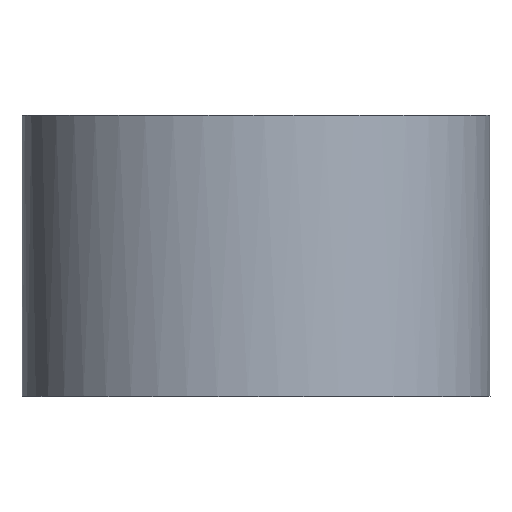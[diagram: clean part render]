
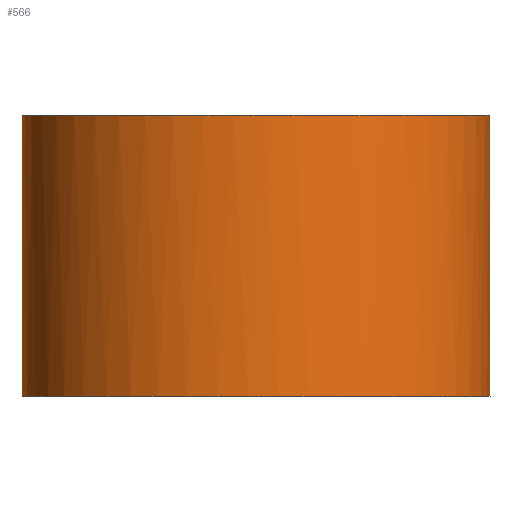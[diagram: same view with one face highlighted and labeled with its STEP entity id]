
A CAD part, top view. The second image highlights one B-rep face of the part: STEP entity #566.
In plain terms, the highlighted free-form (B-spline) face has degree [1, 2] with [2, 7] control points.
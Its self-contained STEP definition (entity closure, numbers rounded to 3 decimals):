
#15=(
BOUNDED_SURFACE()
B_SPLINE_SURFACE(1,2,((#918,#919,#920,#921,#922,#923,#924),(#925,#926,#927,
#928,#929,#930,#931)),.UNSPECIFIED.,.F.,.F.,.F.)
B_SPLINE_SURFACE_WITH_KNOTS((2,2),(3,2,2,3),(-0.6,0.6),(-3.914,
-2.352,-0.79,0.772),.UNSPECIFIED.)
GEOMETRIC_REPRESENTATION_ITEM()
RATIONAL_B_SPLINE_SURFACE(((1.,0.71,1.,0.71,1.,
0.71,1.),(1.,0.71,1.,0.71,1.,0.71,
1.)))
REPRESENTATION_ITEM('')
SURFACE()
);
#36=ELLIPSE('',#581,17.5,15.1);
#37=ELLIPSE('',#585,17.5,15.1);
#65=FACE_OUTER_BOUND('',#105,.T.);
#105=EDGE_LOOP('',(#476,#477,#478,#479));
#170=LINE('',#932,#234);
#171=LINE('',#933,#235);
#234=VECTOR('',#756,10.);
#235=VECTOR('',#757,10.);
#243=VERTEX_POINT('',#781);
#244=VERTEX_POINT('',#783);
#258=VERTEX_POINT('',#816);
#259=VERTEX_POINT('',#818);
#296=EDGE_CURVE('',#243,#244,#36,.T.);
#313=EDGE_CURVE('',#258,#259,#37,.T.);
#360=EDGE_CURVE('',#259,#243,#170,.T.);
#361=EDGE_CURVE('',#244,#258,#171,.T.);
#476=ORIENTED_EDGE('',*,*,#360,.F.);
#477=ORIENTED_EDGE('',*,*,#313,.F.);
#478=ORIENTED_EDGE('',*,*,#361,.F.);
#479=ORIENTED_EDGE('',*,*,#296,.F.);
#566=ADVANCED_FACE('',(#65),#15,.F.);
#581=AXIS2_PLACEMENT_3D('',#784,#632,#633);
#585=AXIS2_PLACEMENT_3D('',#819,#656,#657);
#632=DIRECTION('center_axis',(0.,-1.,0.));
#633=DIRECTION('ref_axis',(1.,0.,0.));
#656=DIRECTION('center_axis',(0.,1.,0.));
#657=DIRECTION('ref_axis',(1.,0.,0.));
#756=DIRECTION('',(0.,-1.,0.));
#757=DIRECTION('',(0.,1.,0.));
#781=CARTESIAN_POINT('',(12.536,-10.5,10.064));
#783=CARTESIAN_POINT('',(-12.536,-10.5,10.064));
#784=CARTESIAN_POINT('Origin',(0.,-10.5,20.6));
#816=CARTESIAN_POINT('',(-12.536,10.5,10.064));
#818=CARTESIAN_POINT('',(12.536,10.5,10.064));
#819=CARTESIAN_POINT('Origin',(0.,10.5,20.6));
#918=CARTESIAN_POINT('Ctrl Pts',(-12.536,-10.5,10.064));
#919=CARTESIAN_POINT('Ctrl Pts',(-24.64,-10.5,20.786));
#920=CARTESIAN_POINT('Ctrl Pts',(-12.32,-10.5,31.324));
#921=CARTESIAN_POINT('Ctrl Pts',(0.,-10.5,41.862));
#922=CARTESIAN_POINT('Ctrl Pts',(12.32,-10.5,31.324));
#923=CARTESIAN_POINT('Ctrl Pts',(24.64,-10.5,20.786));
#924=CARTESIAN_POINT('Ctrl Pts',(12.536,-10.5,10.064));
#925=CARTESIAN_POINT('Ctrl Pts',(-12.536,10.5,10.064));
#926=CARTESIAN_POINT('Ctrl Pts',(-24.64,10.5,20.786));
#927=CARTESIAN_POINT('Ctrl Pts',(-12.32,10.5,31.324));
#928=CARTESIAN_POINT('Ctrl Pts',(0.,10.5,41.862));
#929=CARTESIAN_POINT('Ctrl Pts',(12.32,10.5,31.324));
#930=CARTESIAN_POINT('Ctrl Pts',(24.64,10.5,20.786));
#931=CARTESIAN_POINT('Ctrl Pts',(12.536,10.5,10.064));
#932=CARTESIAN_POINT('',(12.536,0.,10.064));
#933=CARTESIAN_POINT('',(-12.536,0.,10.064));
